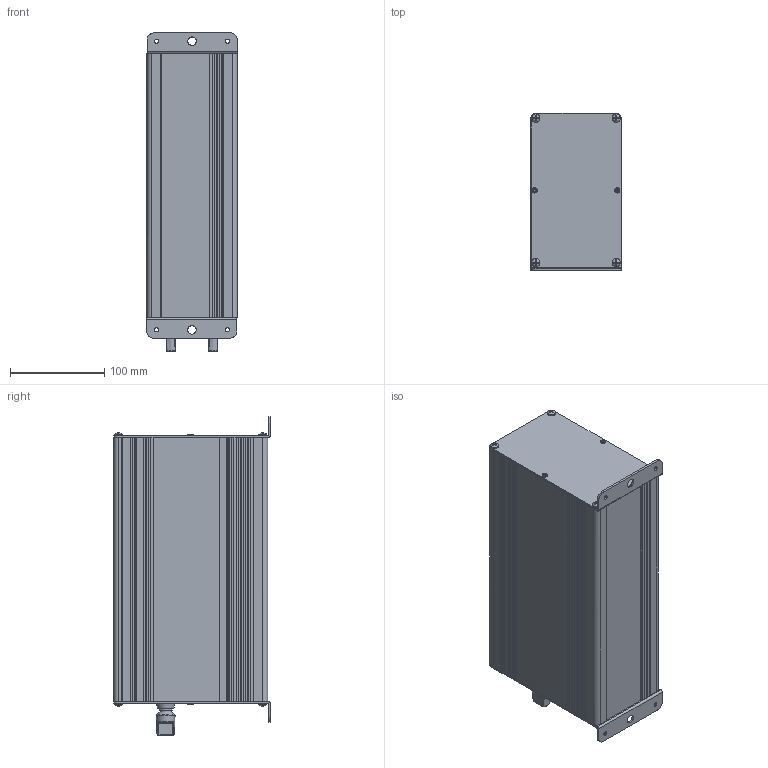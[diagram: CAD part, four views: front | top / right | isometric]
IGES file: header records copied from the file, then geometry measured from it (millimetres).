
Global section: file name: LB-25V55AH; native system: Autodesk Inventor 2021; preprocessor: unknown; author: eunsol jang; date: 20221206.122339; units: inch
Bounding box: 95.73 x 166.4 x 337.7 mm (x, y, z)
Volume: 471949.5 mm3; surface area: 396796 mm2
Topology: 1 solids, 1 shells, 754 faces, 2206 edges, 1442 vertices
Faces by surface type: bspline 754
